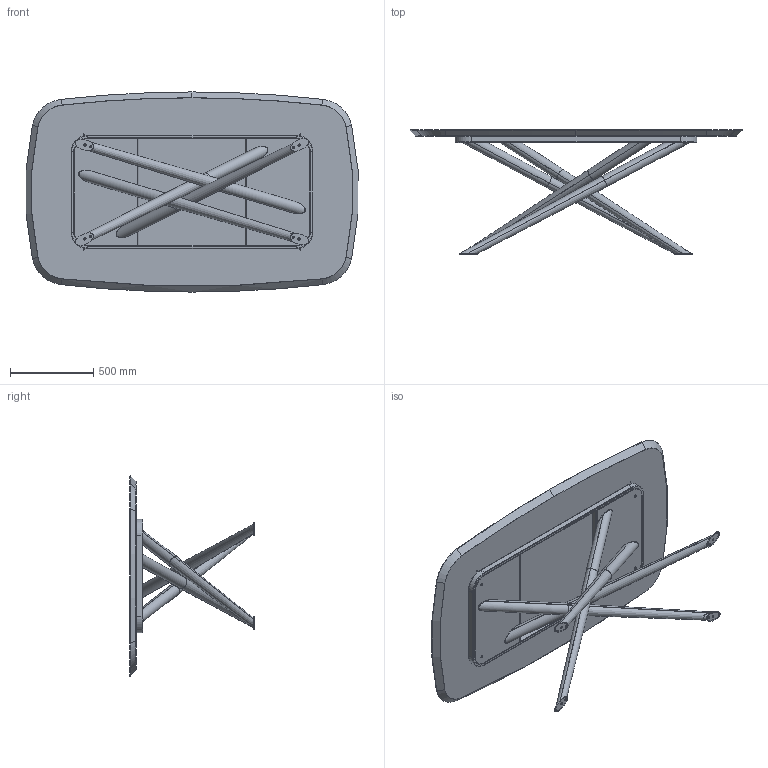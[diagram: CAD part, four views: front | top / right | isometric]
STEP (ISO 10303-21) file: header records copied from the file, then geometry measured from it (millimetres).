
FILE_DESCRIPTION (( 'STEP AP203' ), '1' );
FILE_NAME ('BA41W.STEP', '2024-08-08T05:59:04', ( '' ), ( '' ), 'SwSTEP 2.0', 'SolidWorks 2022', '' );
FILE_SCHEMA (( 'CONFIG_CONTROL_DESIGN' ));
Length unit declared in the file: millimetre
Products named in the file (10): TR Fastenings Ltd-M6_M6; 434070-00-PIEDINO TPV GOMMA NERO D. 30x8max18; M6xXXmm_HEX_M6x30mm HEX; BA41W; BAB100000_02-00-piede per baly 240; BAB100000_03-00-Telaio BALY L240_Default<A macchina>; BAB100000_01-00-Gambe saldate BALY 240_Default<A macchina>; W4XCMXX-00-Piani Sagomati legno_ 2000 x 1200; M8xXXmm_M8x55mm; BAB100000-00-BALY BASE GREZZA L240 rettangolare
Assembly tree (24 placements, depth 3):
  BA41W
    W4XCMXX-00-Piani Sagomati legno_ 2000 x 1200
    BAB100000-00-BALY BASE GREZZA L240 rettangolare
      BAB100000_01-00-Gambe saldate BALY 240_Default<A macchina>
      BAB100000_03-00-Telaio BALY L240_Default<A macchina>
      BAB100000_02-00-piede per baly 240  x4
      TR Fastenings Ltd-M6_M6  x2
      M6xXXmm_HEX_M6x30mm HEX  x8
    434070-00-PIEDINO TPV GOMMA NERO D. 30x8max18  x2
    M8xXXmm_M8x55mm  x4
Bounding box: 1990.53 x 747 x 1200 mm (x, y, z)
Volume: 87303421.5 mm3; surface area: 8819477.7 mm2
Topology: 35 solids, 35 shells, 843 faces, 1768 edges, 971 vertices
Faces by surface type: plane 350, cylinder 225, cone 169, torus 81, bspline 18
Entity records: 13273 total; most frequent: CARTESIAN_POINT 2267, DIRECTION 2175, ORIENTED_EDGE 1840, EDGE_CURVE 920, AXIS2_PLACEMENT_3D 868, VERTEX_POINT 530, EDGE_LOOP 496, ADVANCED_FACE 446
